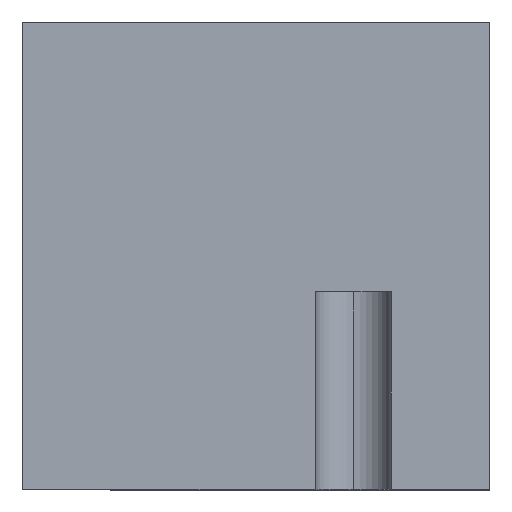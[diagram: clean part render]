
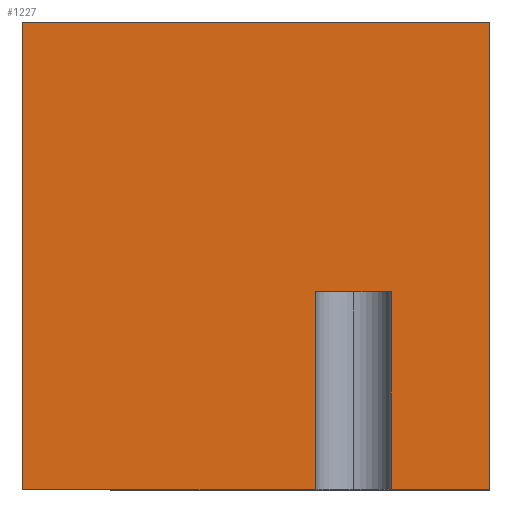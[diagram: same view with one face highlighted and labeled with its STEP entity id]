
A CAD part, top view. The second image highlights one B-rep face of the part: STEP entity #1227.
In plain terms, the highlighted planar face has unit normal (0, 0, 1).
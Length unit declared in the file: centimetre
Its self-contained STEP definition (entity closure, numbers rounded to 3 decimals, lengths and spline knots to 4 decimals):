
#18 = VECTOR ( 'NONE', #762, 100. ) ;
#24 = CARTESIAN_POINT ( 'NONE',  ( 0., 1000., 1000. ) ) ;
#26 = FACE_OUTER_BOUND ( 'NONE', #1171, .T. ) ;
#38 = VERTEX_POINT ( 'NONE', #1188 ) ;
#41 = VECTOR ( 'NONE', #340, 100. ) ;
#81 = LINE ( 'NONE', #1250, #608 ) ;
#90 = CARTESIAN_POINT ( 'NONE',  ( 0., 0., 1000. ) ) ;
#94 = ORIENTED_EDGE ( 'NONE', *, *, #715, .T. ) ;
#106 = DIRECTION ( 'NONE',  ( -1., 0., 0. ) ) ;
#117 = LINE ( 'NONE', #818, #1114 ) ;
#174 = DIRECTION ( 'NONE',  ( 0., 1., 0. ) ) ;
#182 = LINE ( 'NONE', #439, #290 ) ;
#191 = VECTOR ( 'NONE', #486, 100. ) ;
#225 = EDGE_CURVE ( 'NONE', #819, #752, #1059, .T. ) ;
#290 = VECTOR ( 'NONE', #464, 100. ) ;
#291 = VERTEX_POINT ( 'NONE', #466 ) ;
#299 = DIRECTION ( 'NONE',  ( 0., 0., 1. ) ) ;
#340 = DIRECTION ( 'NONE',  ( 1., 0., 0. ) ) ;
#362 = CARTESIAN_POINT ( 'NONE',  ( 0., 1000., 1000. ) ) ;
#363 = CARTESIAN_POINT ( 'NONE',  ( 1000., 0., 1000. ) ) ;
#380 = EDGE_CURVE ( 'NONE', #872, #1009, #506, .T. ) ;
#393 = PLANE ( 'NONE',  #405 ) ;
#405 = AXIS2_PLACEMENT_3D ( 'NONE', #795, #299, #1249 ) ;
#439 = CARTESIAN_POINT ( 'NONE',  ( 789.7937, 422.4843, 1000. ) ) ;
#445 = ORIENTED_EDGE ( 'NONE', *, *, #1052, .F. ) ;
#464 = DIRECTION ( 'NONE',  ( 0., -1., 0. ) ) ;
#466 = CARTESIAN_POINT ( 'NONE',  ( 627.1174, 422.4843, 1000. ) ) ;
#486 = DIRECTION ( 'NONE',  ( 0., -1., 0. ) ) ;
#498 = VERTEX_POINT ( 'NONE', #616 ) ;
#506 = LINE ( 'NONE', #24, #809 ) ;
#601 = ORIENTED_EDGE ( 'NONE', *, *, #380, .T. ) ;
#608 = VECTOR ( 'NONE', #174, 100. ) ;
#616 = CARTESIAN_POINT ( 'NONE',  ( 0., 0., 1000. ) ) ;
#643 = VECTOR ( 'NONE', #760, 100. ) ;
#649 = ORIENTED_EDGE ( 'NONE', *, *, #802, .T. ) ;
#657 = ORIENTED_EDGE ( 'NONE', *, *, #225, .T. ) ;
#715 = EDGE_CURVE ( 'NONE', #38, #819, #182, .T. ) ;
#752 = VERTEX_POINT ( 'NONE', #363 ) ;
#760 = DIRECTION ( 'NONE',  ( 0., -1., 0. ) ) ;
#762 = DIRECTION ( 'NONE',  ( 1., 0., 0. ) ) ;
#778 = EDGE_CURVE ( 'NONE', #1009, #498, #940, .T. ) ;
#795 = CARTESIAN_POINT ( 'NONE',  ( 0., 0., 1000. ) ) ;
#798 = LINE ( 'NONE', #1011, #191 ) ;
#802 = EDGE_CURVE ( 'NONE', #498, #1097, #842, .T. ) ;
#809 = VECTOR ( 'NONE', #1184, 100. ) ;
#818 = CARTESIAN_POINT ( 'NONE',  ( 0., 422.4843, 1000. ) ) ;
#819 = VERTEX_POINT ( 'NONE', #948 ) ;
#842 = LINE ( 'NONE', #1232, #41 ) ;
#872 = VERTEX_POINT ( 'NONE', #1137 ) ;
#940 = LINE ( 'NONE', #1025, #643 ) ;
#941 = ORIENTED_EDGE ( 'NONE', *, *, #778, .T. ) ;
#948 = CARTESIAN_POINT ( 'NONE',  ( 789.7937, 0., 1000. ) ) ;
#1007 = EDGE_CURVE ( 'NONE', #752, #872, #81, .T. ) ;
#1009 = VERTEX_POINT ( 'NONE', #362 ) ;
#1011 = CARTESIAN_POINT ( 'NONE',  ( 627.1174, 422.4843, 1000. ) ) ;
#1025 = CARTESIAN_POINT ( 'NONE',  ( 0., 1000., 1000. ) ) ;
#1035 = EDGE_CURVE ( 'NONE', #38, #291, #117, .T. ) ;
#1049 = ORIENTED_EDGE ( 'NONE', *, *, #1007, .T. ) ;
#1052 = EDGE_CURVE ( 'NONE', #291, #1097, #798, .T. ) ;
#1059 = LINE ( 'NONE', #90, #18 ) ;
#1097 = VERTEX_POINT ( 'NONE', #1189 ) ;
#1114 = VECTOR ( 'NONE', #106, 100. ) ;
#1121 = ORIENTED_EDGE ( 'NONE', *, *, #1035, .F. ) ;
#1137 = CARTESIAN_POINT ( 'NONE',  ( 1000., 1000., 1000. ) ) ;
#1171 = EDGE_LOOP ( 'NONE', ( #445, #1121, #94, #657, #1049, #601, #941, #649 ) ) ;
#1184 = DIRECTION ( 'NONE',  ( -1., 0., 0. ) ) ;
#1188 = CARTESIAN_POINT ( 'NONE',  ( 789.7937, 422.4843, 1000. ) ) ;
#1189 = CARTESIAN_POINT ( 'NONE',  ( 627.1174, 0., 1000. ) ) ;
#1227 = ADVANCED_FACE ( 'NONE', ( #26 ), #393, .T. ) ;
#1232 = CARTESIAN_POINT ( 'NONE',  ( 0., 0., 1000. ) ) ;
#1249 = DIRECTION ( 'NONE',  ( 1., 0., 0. ) ) ;
#1250 = CARTESIAN_POINT ( 'NONE',  ( 1000., 1000., 1000. ) ) ;
